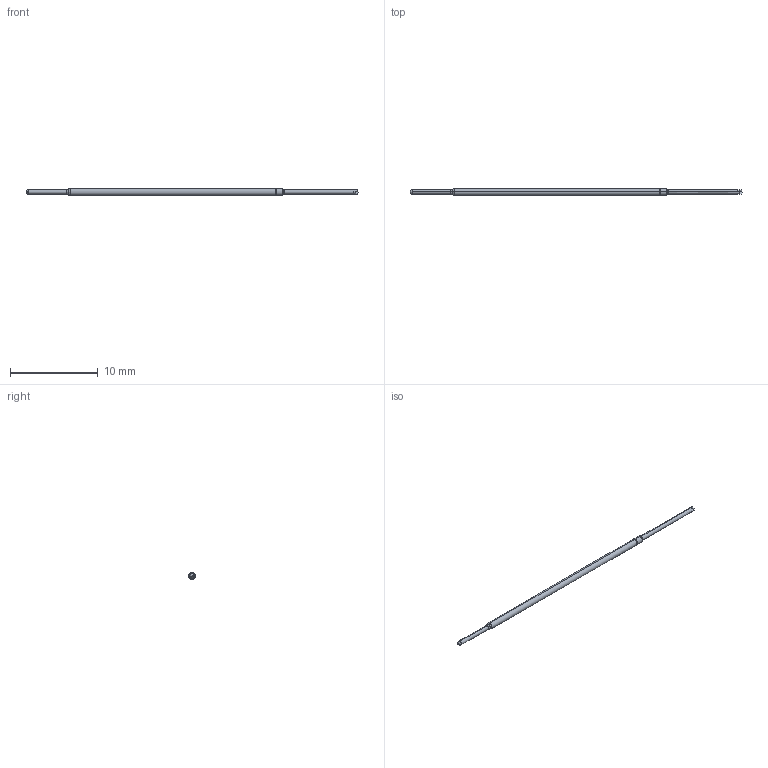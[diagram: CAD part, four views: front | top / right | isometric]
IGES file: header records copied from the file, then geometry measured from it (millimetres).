
Start section: SolidWorks IGES file using analytic representation for surfaces
Global section: file name: C:\Documents and Settings\mrumschlag\Desktop\changes\new\test\FP.IGS; native system: SolidWorks 2011; preprocessor: SolidWorks 2011; author: mrumschlag; date: 110630.142733; units: inch
Bounding box: 37.93 x 0.76 x 0.76 mm (x, y, z)
Surface area: 81.4 mm2 (no closed solid volume)
Topology: 0 solids, 0 shells, 35 faces, 194 edges, 192 vertices
Faces by surface type: bspline 21, revolution 14
